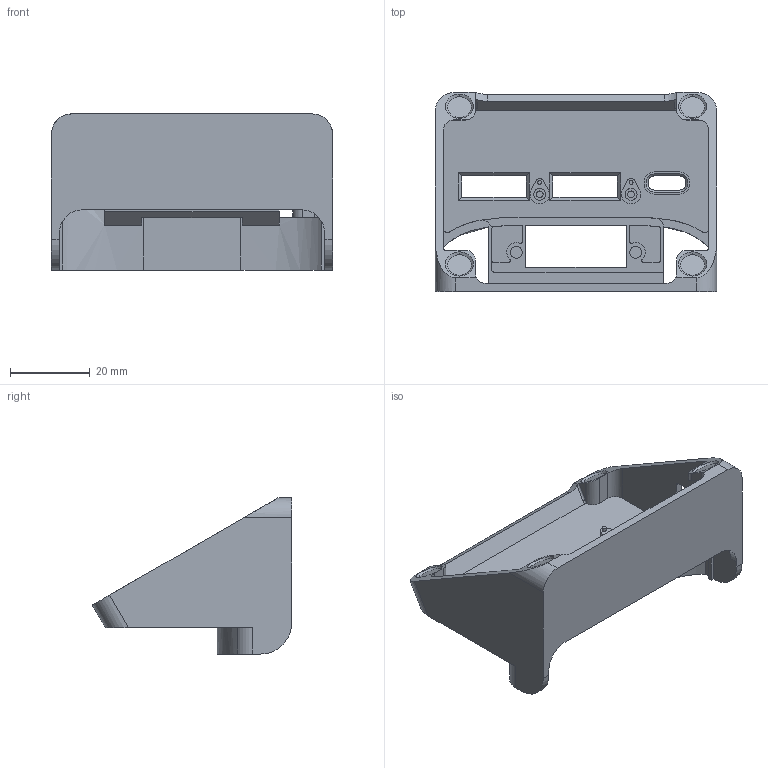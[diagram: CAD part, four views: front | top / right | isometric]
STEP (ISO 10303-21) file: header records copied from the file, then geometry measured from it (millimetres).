
FILE_DESCRIPTION (( 'STEP AP203' ), '1' );
FILE_NAME ('ESP32-S3-BOX-3_Dock.STEP', '2023-09-19T07:18:50', ( 'Windows User' ), ( 'P R C' ), 'SwSTEP 2.0', 'SolidWorks 2017', '' );
FILE_SCHEMA (( 'CONFIG_CONTROL_DESIGN' ));
Length unit declared in the file: millimetre
Products named in the file (1): ESP32-S3-BOX-3_Dock
Bounding box: 70.5 x 49.97 x 39.14 mm (x, y, z)
Volume: 14973 mm3; surface area: 16566.9 mm2
Topology: 1 solids, 1 shells, 394 faces, 1088 edges, 720 vertices
Faces by surface type: plane 236, cylinder 99, bspline 47, cone 12
Entity records: 14654 total; most frequent: CARTESIAN_POINT 4717, ORIENTED_EDGE 2176, DIRECTION 1852, EDGE_CURVE 1088, VECTOR 760, LINE 760, VERTEX_POINT 720, AXIS2_PLACEMENT_3D 546
